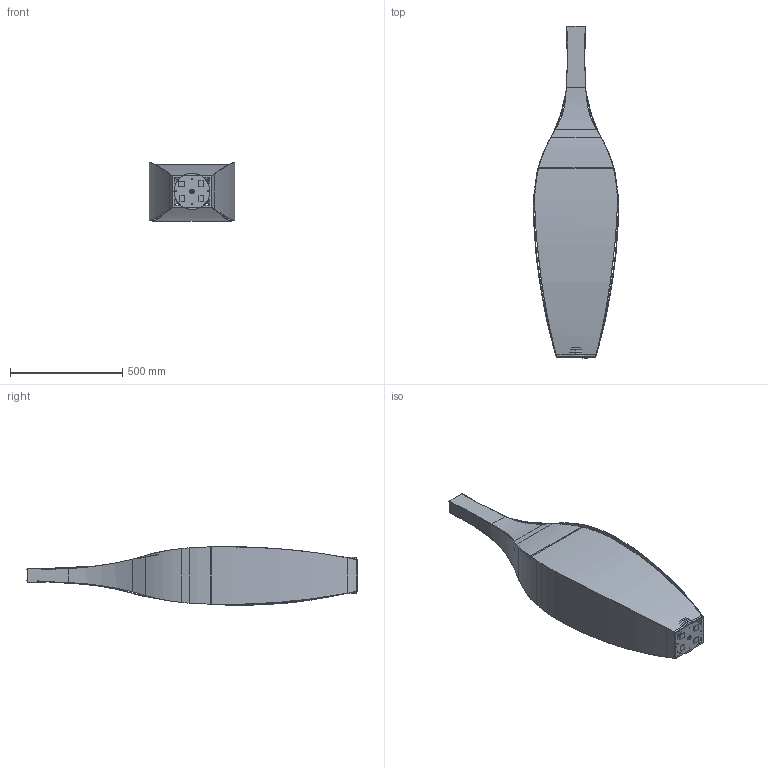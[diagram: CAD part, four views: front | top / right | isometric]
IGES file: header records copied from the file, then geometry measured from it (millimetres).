
Start section: SolidWorks IGES file using analytic representation for surfaces
Global section: file name: \\utenti\Dati Utenti\Tecnico\DC\2D - 3D per sito\3D\DeCastelli-3D-Rocco 147.igs; native system: SolidWorks 2022; preprocessor: SolidWorks 2022; author: Simonep; date: 240729.120646; units: millimetre
Bounding box: 379.11 x 1475.66 x 260.84 mm (x, y, z)
Surface area: 2538137.9 mm2 (no closed solid volume)
Topology: 0 solids, 0 shells, 220 faces, 1914 edges, 1914 vertices
Faces by surface type: bspline 129, revolution 91
